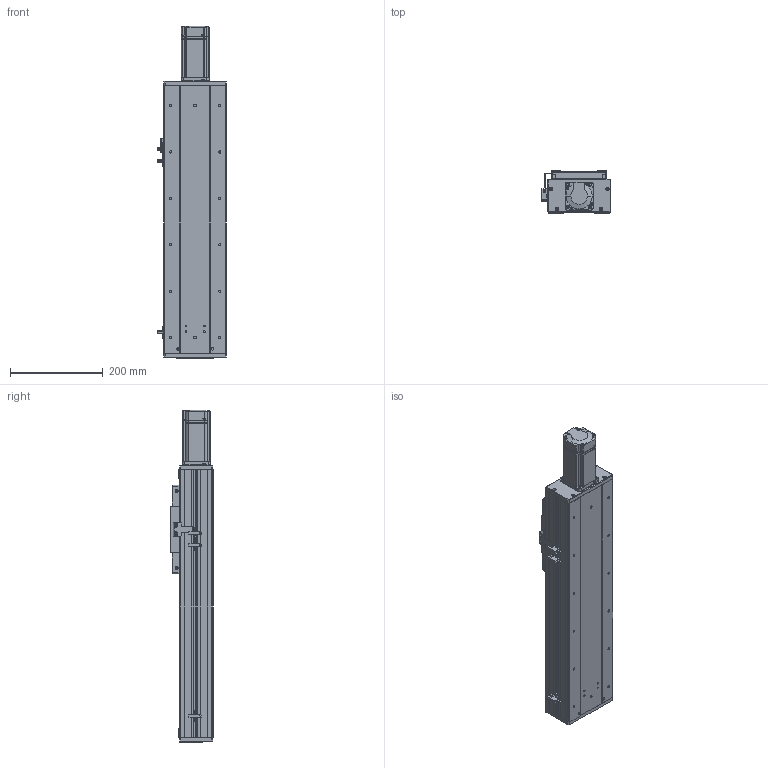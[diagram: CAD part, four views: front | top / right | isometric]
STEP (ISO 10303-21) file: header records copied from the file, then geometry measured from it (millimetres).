
FILE_DESCRIPTION (( 'STEP AP203' ), '1' );
FILE_NAME ('RY140F-L2020-300-MK.SLDASM_300.step', '2021-03-02T06:23:31', ( '盈信电脑' ), ( '东莞市道滘镇水果街19号' ), 'SwSTEP 2.0', 'SolidWorks 2012', '' );
FILE_SCHEMA (( 'CONFIG_CONTROL_DESIGN' ));
Length unit declared in the file: millimetre
Products named in the file (18): 侐源滅袉蝶; 滅袉蝶18-10; RY140F-L2020-300-MK.SLDASM_300; RY140F-詩湍揤え; RY140F-672覜茼んえ; 覜茼ん672; 15; RY140F-直连前盖板(铝件）; 侂狟400W侜督萇儂; RY140F-后盖板(铝件）; RY140F-詩湍幗謫粣; RY140F-滅鳥奻裔; RY140F-直连型材铝滑块(16丝杆); RY100F-詩湍揤踡謫; RY140F-300-MK眻蟀倰第菁釱; RY140F-直连型材铝滑块连接座; RY140F-300-MK眻蟀詩湍; RY140F-300-MK眻蟀倰第奻裔啣
Assembly tree (22 placements, depth 3):
  RY140F-L2020-300-MK.SLDASM_300
    RY140F-300-MK眻蟀倰第菁釱
    RY140F-300-MK眻蟀倰第奻裔啣  x2
    RY140F-300-MK眻蟀詩湍
    RY140F-直连型材铝滑块连接座
    RY140F-滅鳥奻裔
    RY140F-詩湍幗謫粣
    RY100F-詩湍揤踡謫
    RY140F-直连型材铝滑块(16丝杆)
    RY140F-直连前盖板(铝件）
    RY140F-后盖板(铝件）
    侂狟400W侜督萇儂
      15
    覜茼ん672  x3
    RY140F-672覜茼んえ
    RY140F-詩湍揤え  x2
    滅袉蝶18-10
    侐源滅袉蝶  x2
Bounding box: 148.7 x 91 x 715.5 mm (x, y, z)
Volume: 2685353 mm3; surface area: 898782.1 mm2
Topology: 21 solids, 21 shells, 1888 faces, 5205 edges, 3354 vertices
Faces by surface type: plane 854, cylinder 850, cone 162, bspline 18, torus 4
Entity records: 54782 total; most frequent: CARTESIAN_POINT 11063, DIRECTION 8880, ORIENTED_EDGE 8590, EDGE_CURVE 4295, AXIS2_PLACEMENT_3D 3159, VERTEX_POINT 2822, LINE 2562, VECTOR 2562
